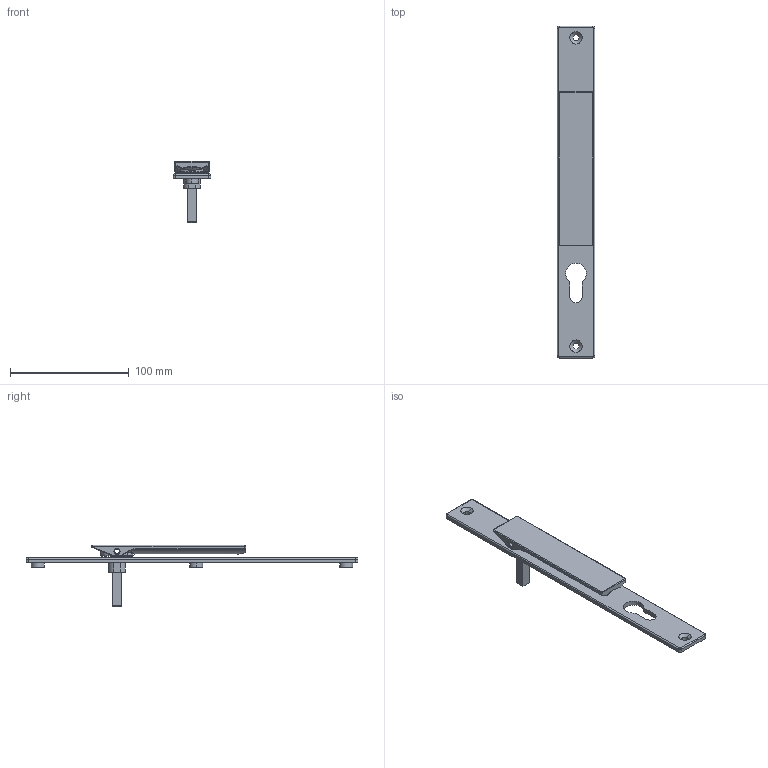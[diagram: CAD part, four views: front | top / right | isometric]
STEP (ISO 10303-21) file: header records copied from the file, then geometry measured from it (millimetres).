
FILE_DESCRIPTION (( 'STEP AP203' ), '1' );
FILE_NAME ('TPL-SS-002-37-C 22Apr2026.STEP', '2026-04-24T00:15:06', ( '' ), ( '' ), 'SwSTEP 2.0', 'SolidWorks 2023', '' );
FILE_SCHEMA (( 'CONFIG_CONTROL_DESIGN' ));
Length unit declared in the file: millimetre
Products named in the file (6): Copy of LKC-506 Swing handle SS - simplified^TPL-SS-002 22Apr2026; TPL-SS-002-37-C 22Apr2026; Copy of Escutcheon plate keyed internal 280mm - simplified^TPL-SS-002 22Apr2026; Copy of LKC-585 Rotator body zinc - simplified^TPL-SS-002 22Apr2026; Copy of LKC-584 Pivot body zinc - simplified^TPL-SS-002 22Apr2026; Copy of LKC-586 Spindle square 8mm with M4 hole - simplified^TPL-SS-002 22Apr2026_37mm
Assembly tree (5 placements, depth 2):
  TPL-SS-002-37-C 22Apr2026
    Copy of Escutcheon plate keyed internal 280mm - simplified^TPL-SS-002 22Apr2026
    Copy of LKC-586 Spindle square 8mm with M4 hole - simplified^TPL-SS-002 22Apr2026_37mm
    Copy of LKC-584 Pivot body zinc - simplified^TPL-SS-002 22Apr2026
    Copy of LKC-585 Rotator body zinc - simplified^TPL-SS-002 22Apr2026
    Copy of LKC-506 Swing handle SS - simplified^TPL-SS-002 22Apr2026
Bounding box: 32 x 280 x 51.55 mm (x, y, z)
Volume: 59512.9 mm3; surface area: 34169.9 mm2
Topology: 5 solids, 5 shells, 298 faces, 712 edges, 430 vertices
Faces by surface type: cylinder 113, plane 81, bspline 44, torus 36, cone 22, sphere 2
Entity records: 10250 total; most frequent: CARTESIAN_POINT 2934, ORIENTED_EDGE 1420, DIRECTION 1411, EDGE_CURVE 710, AXIS2_PLACEMENT_3D 559, VERTEX_POINT 430, EDGE_LOOP 332, ADVANCED_FACE 298
